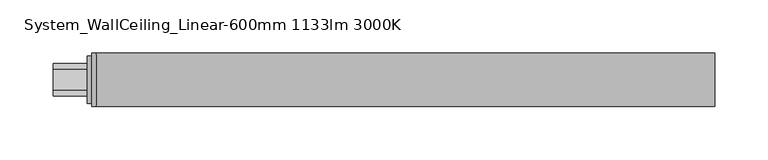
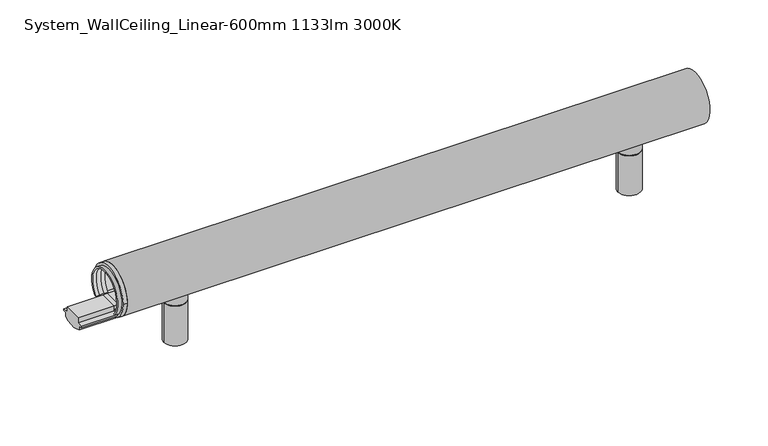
"""IFC4 building model written with IfcOpenShell, lengths in millimetres: light fixture geometry, ARTEMIDE-AoL-System-Linear_WallCeiling_US : System_WallCeiling_Linear-600mm 1133lm 3000K."""

import ifcopenshell
import ifcopenshell.guid

model = None  # the IFC model being written
_history = None  # IfcOwnerHistory: only IFC2X3 demands one
_inside = {}  # id of a spatial element -> (the spatial element, [elements in it])
_under = {}  # id of a project, library or spatial element -> (it, [spatial elements below it])
_declared = {}  # id of a project -> (the project, [libraries it declares])
_typed = {}  # id of a type object -> (the type object, [elements of that type])
_made_of = {}  # id of a material, layer set ... -> (it, [elements and type objects made of it])


def new_model(schema):
    """Start an empty IFC model of exactly this schema.

    Asked for "IFC4X3", IfcOpenShell would pick the latest addendum, in which some entities
    have other attributes; the version numbers below select the first issue.
    IFC2X3 requires an IfcOwnerHistory on every rooted entity: one is made here for all.
    """
    global model, _history
    if schema == "IFC4X3":
        model = ifcopenshell.file(schema_version=(4, 3, 0, 0))
    else:
        model = ifcopenshell.file(schema=schema)
    _inside.clear()
    _under.clear()
    _declared.clear()
    _typed.clear()
    _made_of.clear()
    _history = None
    if model.schema == "IFC2X3":
        org = make("IfcOrganization", Name="unknown")
        user = make(
            "IfcPersonAndOrganization",
            ThePerson=make("IfcPerson", FamilyName="unknown"),
            TheOrganization=org,
        )
        app = make(
            "IfcApplication",
            ApplicationDeveloper=org,
            Version="unknown",
            ApplicationFullName="unknown",
            ApplicationIdentifier="unknown",
        )
        _history = make(
            "IfcOwnerHistory",
            OwningUser=user,
            OwningApplication=app,
            ChangeAction="ADDED",
            CreationDate=0,
        )
    return model


def make(cls, **values):
    """One entity of the class cls with the attributes given. An attribute that is None is left unset."""
    return model.create_entity(
        cls, **{name: value for name, value in values.items() if value is not None}
    )


def rooted(cls, **values):
    """An entity with a GlobalId (a new one), such as an element, a storey or a relation."""
    return make(cls, GlobalId=ifcopenshell.guid.new(), OwnerHistory=_history, **values)


def si_unit(unit_type, name, prefix=None):
    """IfcSIUnit, for example si_unit("LENGTHUNIT", "METRE", prefix="MILLI")."""
    return make("IfcSIUnit", UnitType=unit_type, Prefix=prefix, Name=name)


def assignment(units):
    """IfcUnitAssignment: the units of a project."""
    return None if units is None else make("IfcUnitAssignment", Units=units)


def point(xyz):
    """IfcCartesianPoint."""
    return None if xyz is None else make("IfcCartesianPoint", Coordinates=xyz)


def direction(xyz):
    """IfcDirection."""
    return None if xyz is None else make("IfcDirection", DirectionRatios=xyz)


def frame(location, z_axis=None, x_axis=None):
    """IfcAxis2Placement3D, a coordinate frame: its origin and axes. An axis left out is left unset."""
    return make(
        "IfcAxis2Placement3D",
        Location=point(location),
        Axis=direction(z_axis),
        RefDirection=direction(x_axis),
    )


def frame_2d(location, x_axis=None):
    """IfcAxis2Placement2D, a coordinate frame in the plane: its origin and x axis."""
    return make(
        "IfcAxis2Placement2D", Location=point(location), RefDirection=direction(x_axis)
    )


def origin():
    """The frame at (0, 0, 0) with its axes left unset."""
    return frame((0.0, 0.0, 0.0))


def place(relative_to, where):
    """IfcLocalPlacement: puts the frame where relative to a parent placement (None: the world)."""
    return make(
        "IfcLocalPlacement", PlacementRelTo=relative_to, RelativePlacement=where
    )


def context(
    kind, dimensions, precision=None, world=None, true_north=None, identifier=None
):
    """IfcGeometricRepresentationContext, for example the 3D "Model" context."""
    return make(
        "IfcGeometricRepresentationContext",
        ContextIdentifier=identifier,
        ContextType=kind,
        CoordinateSpaceDimension=dimensions,
        Precision=precision,
        WorldCoordinateSystem=world,
        TrueNorth=true_north,
    )


def project(units=None, contexts=None):
    """IfcProject with its units and contexts."""
    return rooted(
        "IfcProject",
        Name="project",
        RepresentationContexts=contexts,
        UnitsInContext=assignment(units),
    )


def spatial(cls, under=None, at=None, **own):
    """A site, building, storey or space (cls), placed at a placement, below another one or the project."""
    s = rooted(cls, ObjectPlacement=at, **own)
    if under is not None:
        _under.setdefault(under.id(), (under, []))[1].append(s)
    return s


def polyline(points):
    """IfcPolyline through the points."""
    return make("IfcPolyline", Points=[point(p) for p in points])


def circle_curve(where, radius):
    """IfcCircle in the frame where."""
    return make("IfcCircle", Position=where, Radius=radius)


def trimmed(basis, trim1, trim2, sense, master):
    """IfcTrimmedCurve: the piece of a basis curve between two trims."""
    return make(
        "IfcTrimmedCurve",
        BasisCurve=basis,
        Trim1=trim1,
        Trim2=trim2,
        SenseAgreement=sense,
        MasterRepresentation=master,
    )


def segment(curve, same_sense, transition):
    """IfcCompositeCurveSegment."""
    return make(
        "IfcCompositeCurveSegment",
        Transition=transition,
        SameSense=same_sense,
        ParentCurve=curve,
    )


def composite_curve(segments, self_intersect=None):
    """IfcCompositeCurve: segments joined end to end."""
    return make("IfcCompositeCurve", Segments=segments, SelfIntersect=self_intersect)


def outline(outer, holes=None, kind="AREA"):
    """IfcArbitraryClosedProfileDef: a profile drawn as a closed curve; with holes, ...WithVoids."""
    if holes is None:
        return make("IfcArbitraryClosedProfileDef", ProfileType=kind, OuterCurve=outer)
    return make(
        "IfcArbitraryProfileDefWithVoids",
        ProfileType=kind,
        OuterCurve=outer,
        InnerCurves=holes,
    )


def extrude(swept, where, along, depth):
    """IfcExtrudedAreaSolid: the profile swept, set in the frame where, extruded along a direction by depth."""
    return make(
        "IfcExtrudedAreaSolid",
        SweptArea=swept,
        Position=where,
        ExtrudedDirection=direction(along),
        Depth=depth,
    )


def shape(context_of_items, identifier, shape_type, items):
    """IfcShapeRepresentation: the items that make up one representation, for example the "Body"."""
    return make(
        "IfcShapeRepresentation",
        ContextOfItems=context_of_items,
        RepresentationIdentifier=identifier,
        RepresentationType=shape_type,
        Items=items,
    )


def source(mapping_origin, context_of_items, identifier, shape_type, items):
    """IfcRepresentationMap: a shape defined once, which mapped items show again and again."""
    return make(
        "IfcRepresentationMap",
        MappingOrigin=mapping_origin,
        MappedRepresentation=shape(context_of_items, identifier, shape_type, items),
    )


def transform(
    local_origin,
    x_axis=None,
    y_axis=None,
    z_axis=None,
    scale=None,
    scale2=None,
    scale3=None,
    uniform=True,
):
    """IfcCartesianTransformationOperator3D, or its non-uniform kind. x_axis, y_axis, z_axis: its Axis1, 2, 3."""
    if uniform:
        return make(
            "IfcCartesianTransformationOperator3D",
            Axis1=direction(x_axis),
            Axis2=direction(y_axis),
            LocalOrigin=point(local_origin),
            Scale=scale,
            Axis3=direction(z_axis),
        )
    return make(
        "IfcCartesianTransformationOperator3DnonUniform",
        Axis1=direction(x_axis),
        Axis2=direction(y_axis),
        LocalOrigin=point(local_origin),
        Scale=scale,
        Axis3=direction(z_axis),
        Scale2=scale2,
        Scale3=scale3,
    )


def mapped(mapping_source, mapping_target):
    """IfcMappedItem: shows the shape of a source again, moved by a transform."""
    return make(
        "IfcMappedItem", MappingSource=mapping_source, MappingTarget=mapping_target
    )


def made_of(thing, what):
    """Note that an element or type object is made of a material, layer set ...; save() writes the relation."""
    if what is not None:
        _made_of.setdefault(what.id(), (what, []))[1].append(thing)
    return thing


def element(
    cls,
    number,
    at=None,
    inside=None,
    cuts=None,
    type_object=None,
    material=None,
    context=None,
    identifier="Body",
    shape_type=None,
    held_by="IfcProductDefinitionShape",
    body=None,
    shapes=None,
    **own,
):
    """One element of the class cls, such as IfcWall. Its Tag is "e" and its number.

    at: its placement. inside: the storey or other place that contains it. cuts: it is an
    opening in that element (IfcRelVoidsElement). A single representation is given by context,
    identifier, shape_type and body (its items); several are given by shapes. held_by: the class
    of the entity that holds the representations. save() writes the other relations.
    """
    e = rooted(cls, Tag="e%d" % number, ObjectPlacement=at, **own)
    if body is not None:
        shapes = [shape(context, identifier, shape_type, body)]
    if shapes is not None:
        e.Representation = make(held_by, Representations=shapes)
    if inside is not None:
        _inside.setdefault(inside.id(), (inside, []))[1].append(e)
    if cuts is not None:
        rooted(
            "IfcRelVoidsElement", RelatingBuildingElement=cuts, RelatedOpeningElement=e
        )
    if type_object is not None:
        _typed.setdefault(type_object.id(), (type_object, []))[1].append(e)
    return made_of(e, material)


def aggregate(whole, parts):
    """IfcRelAggregates: a whole, such as a stair, and the parts it consists of."""
    return rooted("IfcRelAggregates", RelatingObject=whole, RelatedObjects=parts)


def save(model, path):
    """Write the relations noted so far, then the file.

    IfcRelAggregates (storeys below a building ...), IfcRelContainedInSpatialStructure (elements
    in a storey), IfcRelDefinesByType, IfcRelAssociatesMaterial and IfcRelDeclares: one each for
    every whole, place, type object, material and project.
    """
    for whole, parts in _under.values():
        aggregate(whole, parts)
    for where, things in _inside.values():
        rooted(
            "IfcRelContainedInSpatialStructure",
            RelatedElements=things,
            RelatingStructure=where,
        )
    for kind, things in _typed.values():
        rooted("IfcRelDefinesByType", RelatedObjects=things, RelatingType=kind)
    for what, things in _made_of.values():
        rooted("IfcRelAssociatesMaterial", RelatedObjects=things, RelatingMaterial=what)
    for by, libraries in _declared.values():
        rooted("IfcRelDeclares", RelatingContext=by, RelatedDefinitions=libraries)
    model.write(path)


def plane_surface(at):
    """IfcPlane: the flat surface through the origin of the frame at, square to its z axis."""
    return make("IfcPlane", Position=at)


def cylinder_surface(at, radius):
    """IfcCylindricalSurface: all points at the distance radius from the z axis of the frame at."""
    return make("IfcCylindricalSurface", Position=at, Radius=radius)


def revolved_surface(curve, axis_point, axis_direction):
    """IfcSurfaceOfRevolution: the curve turned about the line through axis_point along axis_direction."""
    return make(
        "IfcSurfaceOfRevolution",
        SweptCurve=make("IfcArbitraryOpenProfileDef", ProfileType="CURVE", Curve=curve),
        AxisPosition=make("IfcAxis1Placement", Location=point(axis_point), Axis=direction(axis_direction)),
    )


def advanced_brep(points, edges, surfaces, faces):
    """IfcAdvancedBrep: a solid bounded by faces that lie on surfaces and meet in shared edges.

    An edge is (start, end): straight between two places in points (the first is 0);
    or (start, end, curve); or (start, end, curve, False) where it runs against its curve.
    A face is (place in surfaces, loops), or (place, loops, False) where it looks against
    its surface's normal. A loop lists edges by number (the first is 1), with a minus sign
    where the edge is run from its end to its start. The first loop is the outer one.
    """
    corners = [point(p) for p in points]
    vertices = [make("IfcVertexPoint", VertexGeometry=c) for c in corners]
    made = []
    for start, end, *more in edges:
        made.append(
            make(
                "IfcEdgeCurve",
                EdgeStart=vertices[start],
                EdgeEnd=vertices[end],
                EdgeGeometry=more[0] if more else make("IfcPolyline", Points=[corners[start], corners[end]]),
                SameSense=more[1] if len(more) > 1 else True,
            )
        )
    hull = []
    for where, loops, *sense in faces:
        bounds = []
        for j, loop in enumerate(loops):
            ring = [make("IfcOrientedEdge", EdgeElement=made[abs(k) - 1], Orientation=k > 0) for k in loop]
            bounds.append(
                make(
                    "IfcFaceOuterBound" if j == 0 else "IfcFaceBound",
                    Bound=make("IfcEdgeLoop", EdgeList=ring),
                    Orientation=True,
                )
            )
        hull.append(make("IfcAdvancedFace", Bounds=bounds, FaceSurface=surfaces[where], SameSense=sense[0] if sense else True))
    return make("IfcAdvancedBrep", Outer=make("IfcClosedShell", CfsFaces=hull))


def system_wallceiling_linear_600mm_1133lm_3000k_cc4842e3(model_context):
    return source(origin(), model_context, "Body", "SolidModel", [
        advanced_brep(
        [(-2.0, 25.0245983, 74.9754017), (-2.0, -25.0245983, 74.9754017), (-2.0, -9.5062575, 60.6916114), (-2.0, -9.5062575, 64.3781516), (-2.0, 9.5062575, 64.3781516), (-2.0, 9.5062575, 60.6916114), (-2.0, 15.4273739, 60.6916114), (-2.0, 17.2867732, 60.6916114), (-2.0, -17.2867732, 60.6916114), (-2.0, -15.4273739, 60.6916114), (2.0, 25.0245983, 74.9754017), (2.0, -25.0245983, 74.9754017), (2.0, -9.5062575, 60.6916114), (2.0, -15.4273739, 60.6916114), (2.0, -17.2867732, 60.6916114), (2.0, 17.2867732, 60.6916114), (2.0, 15.4273739, 60.6916114), (2.0, 9.5062575, 60.6916114), (2.0, 9.5062575, 64.3781516), (2.0, -9.5062575, 64.3781516), (-6.0, -15.4273739, 60.6916114), (-6.0, -17.2867732, 60.6916114), (-6.0, 17.2867732, 60.6916114), (-6.0, 15.4273739, 60.6916114), (6.0, -15.4273739, 60.6916114), (6.0, 15.4273739, 60.6916114), (6.0, 17.2867732, 60.6916114), (6.0, -17.2867732, 60.6916114)],
        [
            (0, 1, circle_curve(frame((-2.0, 0.0, 74.9754017), z_axis=(-1.0, 0.0, 0.0), x_axis=(0.0, -1.0, 0.0)), 25.0245983)),
            (1, 0, circle_curve(frame((-2.0, 0.0, 74.9754017), z_axis=(-1.0, 0.0, 0.0), x_axis=(0.0, -1.0, 0.0)), 25.0245983)),
            (2, 3),
            (3, 4),
            (4, 5),
            (5, 6),
            (6, 7),
            (7, 8, circle_curve(frame((-2.0, 0.0, 74.9754017), z_axis=(1.0, 0.0, 0.0), x_axis=(0.0, -1.0, 0.0)), 22.4245221)),
            (8, 9),
            (9, 2),
            (10, 11, circle_curve(frame((2.0, 0.0, 74.9754017), z_axis=(1.0, 0.0, 0.0), x_axis=(0.0, -1.0, 0.0)), 25.0245983)),
            (11, 10, circle_curve(frame((2.0, 0.0, 74.9754017), z_axis=(1.0, 0.0, 0.0), x_axis=(0.0, -1.0, 0.0)), 25.0245983)),
            (12, 13),
            (13, 14),
            (14, 15, circle_curve(frame((2.0, 0.0, 74.9754017), z_axis=(-1.0, 0.0, 0.0), x_axis=(0.0, -1.0, 0.0)), 22.4245221)),
            (15, 16),
            (16, 17),
            (17, 18),
            (18, 19),
            (19, 12),
            (5, 17),
            (16, 6),
            (9, 13),
            (12, 2),
            (19, 3),
            (0, 10),
            (11, 1),
            (16, 13, circle_curve(frame((2.0, 0.0, 74.9754017), z_axis=(1.0, 0.0, 0.0), x_axis=(0.0, -1.0, 0.0)), 21.0245221)),
            (9, 6, circle_curve(frame((-2.0, 0.0, 74.9754017), z_axis=(-1.0, 0.0, 0.0), x_axis=(0.0, -1.0, 0.0)), 21.0245221)),
            (20, 21),
            (21, 22, circle_curve(frame((-6.0, 0.0, 74.9754017), z_axis=(-1.0, 0.0, 0.0), x_axis=(0.0, -1.0, 0.0)), 22.4245221)),
            (22, 23),
            (23, 20, circle_curve(frame((-6.0, 0.0, 74.9754017), z_axis=(1.0, 0.0, 0.0), x_axis=(0.0, -1.0, 0.0)), 21.0245221)),
            (24, 25, circle_curve(frame((6.0, 0.0, 74.9754017), z_axis=(-1.0, 0.0, 0.0), x_axis=(0.0, -1.0, 0.0)), 21.0245221)),
            (25, 26),
            (26, 27, circle_curve(frame((6.0, 0.0, 74.9754017), z_axis=(1.0, 0.0, 0.0), x_axis=(0.0, -1.0, 0.0)), 22.4245221)),
            (27, 24),
            (23, 6),
            (9, 20),
            (24, 13),
            (16, 25),
            (8, 21),
            (27, 14),
            (7, 22),
            (26, 15),
            (18, 4),
        ],
        [
            plane_surface(frame((-2.0, 0.0, 74.9754017), z_axis=(-1.0, 0.0, 0.0), x_axis=(0.0, 0.0, -1.0))),
            plane_surface(frame((2.0, 0.0, 74.9754017), z_axis=(1.0, 0.0, 0.0), x_axis=(0.0, 0.0, -1.0))),
            plane_surface(frame((-2.0, 9.5062575, 60.6916114), z_axis=(0.0, 0.0, 1.0), x_axis=(1.0, 0.0, 0.0))),
            plane_surface(frame((-2.0, -15.4273739, 60.6916114), z_axis=(0.0, 0.0, 1.0), x_axis=(1.0, 0.0, 0.0))),
            plane_surface(frame((-2.0, -9.5062575, 60.6916114), z_axis=(0.0, -1.0, 0.0), x_axis=(1.0, 0.0, 0.0))),
            cylinder_surface(frame((-2.0, 0.0, 74.9754017), z_axis=(-1.0, 0.0, 0.0), x_axis=(0.0, -1.0, 0.0)), 25.0245983),
            revolved_surface(polyline([(2.0, -21.0245221, 74.9754017), (-2.0, -21.0245221, 74.9754017)]), (-2.0, 0.0, 74.9754017), (1.0, 0.0, 0.0)),
            plane_surface(frame((-6.0, 0.0, 74.9754017), z_axis=(-1.0, 0.0, 0.0), x_axis=(0.0, 0.0, -1.0))),
            plane_surface(frame((6.0, 0.0, 74.9754017), z_axis=(1.0, 0.0, 0.0), x_axis=(0.0, 0.0, -1.0))),
            revolved_surface(polyline([(-2.0, -21.0245221, 74.9754017), (-6.0, -21.0245221, 74.9754017)]), (-6.0, 0.0, 74.9754017), (1.0, 0.0, 0.0)),
            revolved_surface(polyline([(6.0, -21.0245221, 74.9754017), (2.0, -21.0245221, 74.9754017)]), (-6.0, 0.0, 74.9754017), (1.0, 0.0, 0.0)),
            plane_surface(frame((-6.0, -15.4273739, 60.6916114), z_axis=(0.0, 0.0, -1.0), x_axis=(1.0, 0.0, 0.0))),
            cylinder_surface(frame((-6.0, 0.0, 74.9754017), z_axis=(-1.0, 0.0, 0.0), x_axis=(0.0, -1.0, 0.0)), 22.4245221),
            plane_surface(frame((-6.0, 17.2867732, 60.6916114), z_axis=(0.0, 0.0, -1.0), x_axis=(1.0, 0.0, 0.0))),
            plane_surface(frame((-2.0, -9.5062575, 64.3781516), z_axis=(0.0, 0.0, 1.0), x_axis=(1.0, 0.0, 0.0))),
            plane_surface(frame((-2.0, 9.5062575, 64.3781516), z_axis=(0.0, 1.0, 0.0), x_axis=(1.0, 0.0, 0.0))),
        ],
        [
            (0, [[1, 2], [3, 4, 5, 6, 7, 8, 9, 10]]),
            (1, [[11, 12], [13, 14, 15, 16, 17, 18, 19, 20]]),
            (2, [[-6, 21, -17, 22]]),
            (3, [[-10, 23, -13, 24]]),
            (4, [[-3, -24, -20, 25]]),
            (5, [[-1, 26, -12, 27]]),
            (6, [[-22, 28, -23, 29]]),
            (7, [[30, 31, 32, 33]]),
            (8, [[34, 35, 36, 37]]),
            (9, [[-33, 38, -29, 39]]),
            (10, [[-34, 40, -28, 41]]),
            (11, [[-30, -39, -9, 42]]),
            (11, [[-37, 43, -14, -40]]),
            (12, [[-31, -42, -8, 44]]),
            (12, [[-36, 45, -15, -43]]),
            (13, [[-32, -44, -7, -38]]),
            (13, [[-35, -41, -16, -45]]),
            (5, [[-2, -27, -11, -26]]),
            (14, [[-4, -25, -19, 46]]),
            (15, [[-5, -46, -18, -21]]),
        ],
    ),
        extrude(outline(composite_curve([segment(polyline([(-11.75, 57.2067494), (-15.304087, 57.2067494), (-15.304087, 58.7367744), (-9.5062575, 58.7367744), (-9.5062575, 64.3781516), (9.5062575, 64.3781516), (9.5062575, 58.7367744), (15.304087, 58.7367744), (15.304087, 57.2067494), (11.75, 57.2067494), (11.75, 52.880877)]), True, "CONTINUOUS"), segment(trimmed(circle_curve(frame_2d((0.0, 74.9754017)), 25.0245983), [point((11.75, 52.880877))], [point((-11.75, 52.880877))], False, "CARTESIAN"), True, "CONTINUOUS"), segment(polyline([(-11.75, 52.880877), (-11.75, 57.2067494)]), True, "CONTINUOUS")], self_intersect=False)), frame((2.0, 0.0, 0.0), z_axis=(1.0, 0.0, 0.0), x_axis=(0.0, 1.0, 0.0)), (0.0, 0.0, 1.0), 36.0),
        extrude(outline(composite_curve([segment(polyline([(-11.75, 57.2067494), (-15.304087, 57.2067494), (-15.304087, 58.7367744), (-9.5062575, 58.7367744), (-9.5062575, 64.3781516), (9.5062575, 64.3781516), (9.5062575, 58.7367744), (15.304087, 58.7367744), (15.304087, 57.2067494), (11.75, 57.2067494), (11.75, 52.880877)]), True, "CONTINUOUS"), segment(trimmed(circle_curve(frame_2d((0.0, 74.9754017)), 25.0245983), [point((11.75, 52.880877))], [point((-11.75, 52.880877))], False, "CARTESIAN"), True, "CONTINUOUS"), segment(polyline([(-11.75, 52.880877), (-11.75, 57.2067494)]), True, "CONTINUOUS")], self_intersect=False)), frame((-38.0, 0.0, 0.0), z_axis=(1.0, 0.0, 0.0), x_axis=(0.0, 1.0, 0.0)), (0.0, 0.0, 1.0), 36.0),
        advanced_brep(
        [(59.3054564, 0.0, 1.0), (68.6945436, 0.0, 1.0), (68.6945436, 0.0, 0.0), (59.3054564, 0.0, 0.0), (52.8054564, 0.0, 1.0), (75.1945436, 0.0, 1.0), (52.8054564, 0.0, 42.5), (75.1945436, 0.0, 42.5), (55.2810808, 0.0, 42.5), (72.7189192, 0.0, 42.5), (55.2810808, 0.0, 43.4995055), (72.7189192, 0.0, 43.4995055), (52.8054564, 0.0, 43.4995055), (75.1945436, 0.0, 43.4995055), (52.8054564, 0.0, 52.9333396), (75.1945436, 0.0, 52.9333396), (64.0, 0.0, 52.9333396), (64.0, 0.0, 0.0)],
        [
            (0, 1, circle_curve(frame((64.0, 0.0, 1.0), z_axis=(0.0, 0.0, -1.0), x_axis=(1.0, 0.0, 0.0)), 4.6945436)),
            (1, 2),
            (2, 3, circle_curve(frame((64.0, 0.0, 0.0), z_axis=(0.0, 0.0, 1.0), x_axis=(1.0, 0.0, 0.0)), 4.6945436)),
            (3, 0),
            (1, 0, circle_curve(frame((64.0, 0.0, 1.0), z_axis=(0.0, 0.0, -1.0), x_axis=(1.0, 0.0, 0.0)), 4.6945436)),
            (3, 2, circle_curve(frame((64.0, 0.0, 0.0), z_axis=(0.0, 0.0, 1.0), x_axis=(1.0, 0.0, 0.0)), 4.6945436)),
            (4, 5, circle_curve(frame((64.0, 0.0, 1.0), z_axis=(0.0, 0.0, -1.0), x_axis=(1.0, 0.0, 0.0)), 11.1945436)),
            (5, 1),
            (0, 4),
            (5, 4, circle_curve(frame((64.0, 0.0, 1.0), z_axis=(0.0, 0.0, -1.0), x_axis=(1.0, 0.0, 0.0)), 11.1945436)),
            (6, 7, circle_curve(frame((64.0, 0.0, 42.5), z_axis=(0.0, 0.0, -1.0), x_axis=(1.0, 0.0, 0.0)), 11.1945436)),
            (7, 5),
            (4, 6),
            (7, 6, circle_curve(frame((64.0, 0.0, 42.5), z_axis=(0.0, 0.0, -1.0), x_axis=(1.0, 0.0, 0.0)), 11.1945436)),
            (8, 9, circle_curve(frame((64.0, 0.0, 42.5), z_axis=(0.0, 0.0, -1.0), x_axis=(1.0, 0.0, 0.0)), 8.7189192)),
            (9, 7),
            (6, 8),
            (9, 8, circle_curve(frame((64.0, 0.0, 42.5), z_axis=(0.0, 0.0, -1.0), x_axis=(1.0, 0.0, 0.0)), 8.7189192)),
            (10, 11, circle_curve(frame((64.0, 0.0, 43.4995055), z_axis=(0.0, 0.0, -1.0), x_axis=(1.0, 0.0, 0.0)), 8.7189192)),
            (11, 9),
            (8, 10),
            (11, 10, circle_curve(frame((64.0, 0.0, 43.4995055), z_axis=(0.0, 0.0, -1.0), x_axis=(1.0, 0.0, 0.0)), 8.7189192)),
            (12, 13, circle_curve(frame((64.0, 0.0, 43.4995055), z_axis=(0.0, 0.0, -1.0), x_axis=(1.0, 0.0, 0.0)), 11.1945436)),
            (13, 11),
            (10, 12),
            (13, 12, circle_curve(frame((64.0, 0.0, 43.4995055), z_axis=(0.0, 0.0, -1.0), x_axis=(1.0, 0.0, 0.0)), 11.1945436)),
            (14, 15, circle_curve(frame((64.0, 0.0, 52.9333396), z_axis=(0.0, 0.0, -1.0), x_axis=(1.0, 0.0, 0.0)), 11.1945436)),
            (15, 13),
            (12, 14),
            (15, 14, circle_curve(frame((64.0, 0.0, 52.9333396), z_axis=(0.0, 0.0, -1.0), x_axis=(1.0, 0.0, 0.0)), 11.1945436)),
            (16, 15),
            (14, 16),
            (2, 17),
            (17, 3),
        ],
        [
            cylinder_surface(frame((64.0, 0.0, -58.83358), z_axis=(0.0, 0.0, 1.0), x_axis=(1.0, 0.0, 0.0)), 4.6945436),
            plane_surface(frame((64.0, 0.0, 1.0), z_axis=(0.0, 0.0, -1.0), x_axis=(1.0, 0.0, 0.0))),
            cylinder_surface(frame((64.0, 0.0, -58.83358), z_axis=(0.0, 0.0, 1.0), x_axis=(1.0, 0.0, 0.0)), 11.1945436),
            plane_surface(frame((64.0, 0.0, 42.5), z_axis=(0.0, 0.0, 1.0), x_axis=(1.0, 0.0, 0.0))),
            cylinder_surface(frame((64.0, 0.0, -58.83358), z_axis=(0.0, 0.0, 1.0), x_axis=(1.0, 0.0, 0.0)), 8.7189192),
            plane_surface(frame((64.0, 0.0, 43.4995055), z_axis=(0.0, 0.0, -1.0), x_axis=(1.0, 0.0, 0.0))),
            plane_surface(frame((64.0, 0.0, 52.9333396), z_axis=(0.0, 0.0, 1.0), x_axis=(1.0, 0.0, 0.0))),
            plane_surface(frame((64.0, 0.0, 0.0), z_axis=(0.0, 0.0, -1.0), x_axis=(1.0, 0.0, 0.0))),
        ],
        [
            (0, [[1, 2, 3, 4]]),
            (0, [[5, -4, 6, -2]]),
            (1, [[7, 8, -1, 9]]),
            (1, [[10, -9, -5, -8]]),
            (2, [[11, 12, -7, 13]]),
            (2, [[14, -13, -10, -12]]),
            (3, [[15, 16, -11, 17]]),
            (3, [[18, -17, -14, -16]]),
            (4, [[19, 20, -15, 21]]),
            (4, [[22, -21, -18, -20]]),
            (5, [[23, 24, -19, 25]]),
            (5, [[26, -25, -22, -24]]),
            (2, [[27, 28, -23, 29]]),
            (2, [[30, -29, -26, -28]]),
            (6, [[31, -27, 32]]),
            (6, [[-32, -30, -31]]),
            (7, [[-3, 33, 34]]),
            (7, [[-6, -34, -33]]),
        ],
    ),
        advanced_brep(
        [(511.3054564, 0.0, 1.0), (520.6945436, 0.0, 1.0), (520.6945436, 0.0, 0.0), (511.3054564, 0.0, 0.0), (504.8054564, 0.0, 1.0), (527.1945436, 0.0, 1.0), (504.8054564, 0.0, 42.5), (527.1945436, 0.0, 42.5), (507.2810808, 0.0, 42.5), (524.7189192, 0.0, 42.5), (507.2810808, 0.0, 43.4995055), (524.7189192, 0.0, 43.4995055), (504.8054564, 0.0, 43.4995055), (527.1945436, 0.0, 43.4995055), (504.8054564, 0.0, 52.9333396), (527.1945436, 0.0, 52.9333396), (516.0, 0.0, 52.9333396), (516.0, 0.0, 0.0)],
        [
            (0, 1, circle_curve(frame((516.0, 0.0, 1.0), z_axis=(0.0, 0.0, -1.0), x_axis=(1.0, 0.0, 0.0)), 4.6945436)),
            (1, 2),
            (2, 3, circle_curve(frame((516.0, 0.0, 0.0), z_axis=(0.0, 0.0, 1.0), x_axis=(1.0, 0.0, 0.0)), 4.6945436)),
            (3, 0),
            (1, 0, circle_curve(frame((516.0, 0.0, 1.0), z_axis=(0.0, 0.0, -1.0), x_axis=(1.0, 0.0, 0.0)), 4.6945436)),
            (3, 2, circle_curve(frame((516.0, 0.0, 0.0), z_axis=(0.0, 0.0, 1.0), x_axis=(1.0, 0.0, 0.0)), 4.6945436)),
            (4, 5, circle_curve(frame((516.0, 0.0, 1.0), z_axis=(0.0, 0.0, -1.0), x_axis=(1.0, 0.0, 0.0)), 11.1945436)),
            (5, 1),
            (0, 4),
            (5, 4, circle_curve(frame((516.0, 0.0, 1.0), z_axis=(0.0, 0.0, -1.0), x_axis=(1.0, 0.0, 0.0)), 11.1945436)),
            (6, 7, circle_curve(frame((516.0, 0.0, 42.5), z_axis=(0.0, 0.0, -1.0), x_axis=(1.0, 0.0, 0.0)), 11.1945436)),
            (7, 5),
            (4, 6),
            (7, 6, circle_curve(frame((516.0, 0.0, 42.5), z_axis=(0.0, 0.0, -1.0), x_axis=(1.0, 0.0, 0.0)), 11.1945436)),
            (8, 9, circle_curve(frame((516.0, 0.0, 42.5), z_axis=(0.0, 0.0, -1.0), x_axis=(1.0, 0.0, 0.0)), 8.7189192)),
            (9, 7),
            (6, 8),
            (9, 8, circle_curve(frame((516.0, 0.0, 42.5), z_axis=(0.0, 0.0, -1.0), x_axis=(1.0, 0.0, 0.0)), 8.7189192)),
            (10, 11, circle_curve(frame((516.0, 0.0, 43.4995055), z_axis=(0.0, 0.0, -1.0), x_axis=(1.0, 0.0, 0.0)), 8.7189192)),
            (11, 9),
            (8, 10),
            (11, 10, circle_curve(frame((516.0, 0.0, 43.4995055), z_axis=(0.0, 0.0, -1.0), x_axis=(1.0, 0.0, 0.0)), 8.7189192)),
            (12, 13, circle_curve(frame((516.0, 0.0, 43.4995055), z_axis=(0.0, 0.0, -1.0), x_axis=(1.0, 0.0, 0.0)), 11.1945436)),
            (13, 11),
            (10, 12),
            (13, 12, circle_curve(frame((516.0, 0.0, 43.4995055), z_axis=(0.0, 0.0, -1.0), x_axis=(1.0, 0.0, 0.0)), 11.1945436)),
            (14, 15, circle_curve(frame((516.0, 0.0, 52.9333396), z_axis=(0.0, 0.0, -1.0), x_axis=(1.0, 0.0, 0.0)), 11.1945436)),
            (15, 13),
            (12, 14),
            (15, 14, circle_curve(frame((516.0, 0.0, 52.9333396), z_axis=(0.0, 0.0, -1.0), x_axis=(1.0, 0.0, 0.0)), 11.1945436)),
            (16, 15),
            (14, 16),
            (2, 17),
            (17, 3),
        ],
        [
            cylinder_surface(frame((516.0, 0.0, -58.83358), z_axis=(0.0, 0.0, 1.0), x_axis=(1.0, 0.0, 0.0)), 4.6945436),
            plane_surface(frame((516.0, 0.0, 1.0), z_axis=(0.0, 0.0, -1.0), x_axis=(1.0, 0.0, 0.0))),
            cylinder_surface(frame((516.0, 0.0, -58.83358), z_axis=(0.0, 0.0, 1.0), x_axis=(1.0, 0.0, 0.0)), 11.1945436),
            plane_surface(frame((516.0, 0.0, 42.5), z_axis=(0.0, 0.0, 1.0), x_axis=(1.0, 0.0, 0.0))),
            cylinder_surface(frame((516.0, 0.0, -58.83358), z_axis=(0.0, 0.0, 1.0), x_axis=(1.0, 0.0, 0.0)), 8.7189192),
            plane_surface(frame((516.0, 0.0, 43.4995055), z_axis=(0.0, 0.0, -1.0), x_axis=(1.0, 0.0, 0.0))),
            plane_surface(frame((516.0, 0.0, 52.9333396), z_axis=(0.0, 0.0, 1.0), x_axis=(1.0, 0.0, 0.0))),
            plane_surface(frame((516.0, 0.0, 0.0), z_axis=(0.0, 0.0, -1.0), x_axis=(1.0, 0.0, 0.0))),
        ],
        [
            (0, [[1, 2, 3, 4]]),
            (0, [[5, -4, 6, -2]]),
            (1, [[7, 8, -1, 9]]),
            (1, [[10, -9, -5, -8]]),
            (2, [[11, 12, -7, 13]]),
            (2, [[14, -13, -10, -12]]),
            (3, [[15, 16, -11, 17]]),
            (3, [[18, -17, -14, -16]]),
            (4, [[19, 20, -15, 21]]),
            (4, [[22, -21, -18, -20]]),
            (5, [[23, 24, -19, 25]]),
            (5, [[26, -25, -22, -24]]),
            (2, [[27, 28, -23, 29]]),
            (2, [[30, -29, -26, -28]]),
            (6, [[31, -27, 32]]),
            (6, [[-32, -30, -31]]),
            (7, [[-3, 33, 34]]),
            (7, [[-6, -34, -33]]),
        ],
    ),
        extrude(outline(composite_curve([segment(trimmed(circle_curve(frame_2d((0.0, 75.0)), 25.0), [point((-11.75, 52.9333396))], [point((11.75, 52.9333396))], False, "CARTESIAN"), True, "CONTINUOUS"), segment(polyline([(11.75, 52.9333396), (11.75, 57.259212), (13.667754, 57.259212), (13.667754, 55.8288843), (15.617754, 57.2440748), (15.617754, 59.244074), (12.667754, 59.244074), (12.667754, 60.744074), (17.2779794, 60.744074)]), True, "CONTINUOUS"), segment(trimmed(circle_curve(frame_2d((0.0, 75.0)), 22.4), [point((17.2779794, 60.744074))], [point((-17.2779794, 60.744074))], True, "CARTESIAN"), True, "CONTINUOUS"), segment(polyline([(-17.2779794, 60.744074), (-12.667754, 60.744074), (-12.667754, 59.244074), (-15.617754, 59.244074), (-15.617754, 57.2440748), (-13.667754, 55.8288843), (-13.667754, 57.259212), (-11.75, 57.259212), (-11.75, 52.9333396)]), True, "CONTINUOUS")], self_intersect=False)), frame((2.0, 0.0, 0.0), z_axis=(1.0, 0.0, 0.0), x_axis=(0.0, 1.0, 0.0)), (0.0, 0.0, 1.0), 580.0),
        extrude(outline(composite_curve([segment(trimmed(circle_curve(frame_2d((0.0, 75.0)), 25.0), [point((11.75, 52.9333396))], [point((-11.75, 52.9333396))], False, "CARTESIAN"), True, "CONTINUOUS"), segment(polyline([(-11.75, 52.9333396), (-11.75, 57.259212), (-15.304087, 57.259212), (-15.304087, 58.785971), (-9.5062575, 58.785971), (-9.5062575, 64.4273482), (9.5062575, 64.4273482), (9.5062575, 58.785971), (15.304087, 58.785971), (15.304087, 57.259212), (11.75, 57.259212), (11.75, 52.9333396)]), True, "CONTINUOUS")], self_intersect=False)), frame((38.0, 0.0, 0.0), z_axis=(1.0, 0.0, 0.0), x_axis=(0.0, 1.0, 0.0)), (0.0, 0.0, 1.0), 544.0),
    ])


if __name__ == "__main__":
    model = new_model("IFC4")
    model_context = context("Model", 3, world=origin())
    ifc_project = project(units=[si_unit("LENGTHUNIT", "METRE", prefix="MILLI")], contexts=[model_context])
    site = spatial("IfcSite", under=ifc_project)
    building = spatial("IfcBuilding", under=site)
    placement = place(None, origin())
    system_wallceiling_linear_600mm_1133lm_3000k_shape = system_wallceiling_linear_600mm_1133lm_3000k_cc4842e3(model_context)
    element("IfcLightFixture", 1, ObjectType="ARTEMIDE-AoL-System-Linear_WallCeiling_US : System_WallCeiling_Linear-600mm 1133lm 3000K", at=placement, inside=building, context=model_context, shape_type="MappedRepresentation", body=[
        mapped(system_wallceiling_linear_600mm_1133lm_3000k_shape, transform((0.0, 0.0, 0.0), x_axis=(1.0, 0.0, 0.0), y_axis=(0.0, 1.0, 0.0), z_axis=(0.0, 0.0, 1.0))),
    ])
    save(model, "model.ifc")
